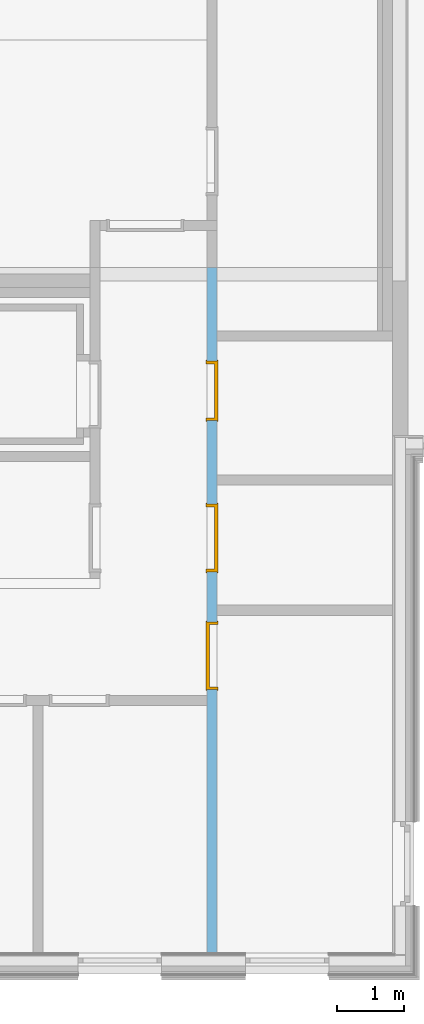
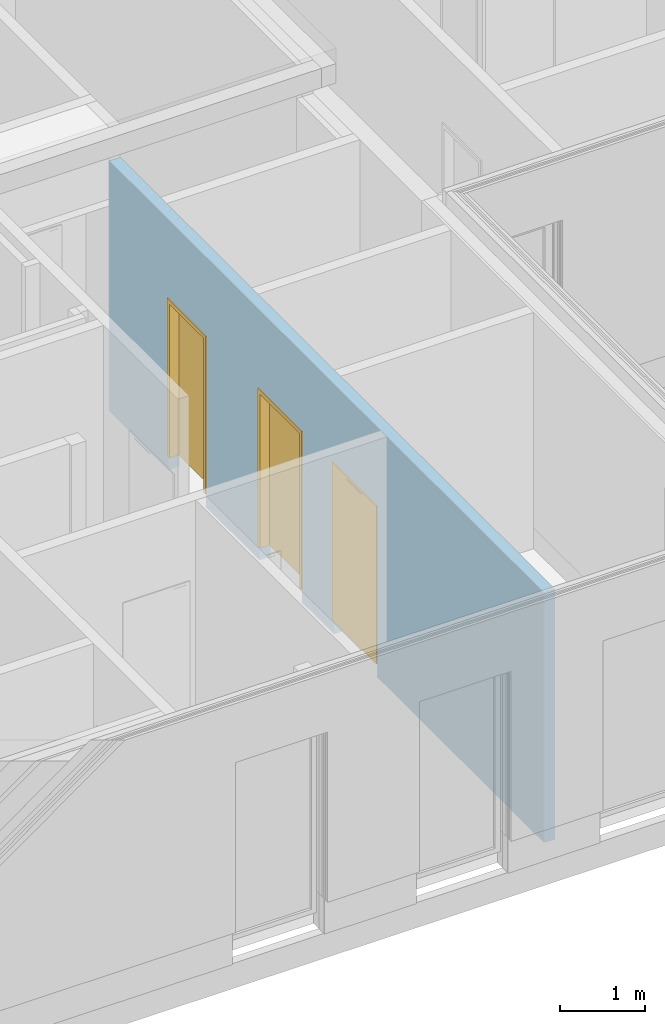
# One storey, part 10 of 23: 3 doors, 3 openings, plus 1 element that does not belong to this part.
"""IFC4 building model written with IfcOpenShell, lengths in metres."""

from ifc_helpers import new_model, entity, si_unit, converted_unit, derived_unit, frame, origin, origin_with_axes, place, context, subcontext, project, spatial, polyline, outline, extrude, faceted_brep, source, transform, mapped, material, type_object, element, fill, save


model = new_model("IFC4")

# Units and contexts
model_context = context("Model", 3, precision=1e-05, world=origin())
body_context = subcontext(model_context, "Body", "Model", "MODEL_VIEW")
ifc_project = project(units=[si_unit("LENGTHUNIT", "METRE"), si_unit("AREAUNIT", "SQUARE_METRE"), si_unit("VOLUMEUNIT", "CUBIC_METRE"), si_unit("MASSUNIT", "GRAM", prefix="KILO"), converted_unit("PLANEANGLEUNIT", "DEGREE", entity("IfcPlaneAngleMeasure", 0.0174532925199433), si_unit("PLANEANGLEUNIT", "RADIAN"), dimensions=[0, 0, 0, 0, 0, 0, 0]), derived_unit("THERMALTRANSMITTANCEUNIT", [(si_unit("POWERUNIT", "WATT"), 1), (si_unit("THERMODYNAMICTEMPERATUREUNIT", "KELVIN"), -1), (si_unit("LENGTHUNIT", "METRE"), -2)]), derived_unit("VOLUMETRICFLOWRATEUNIT", [(si_unit("LENGTHUNIT", "METRE"), 3), (converted_unit("TIMEUNIT", "hour", entity("IfcTimeMeasure", 3600.0), si_unit("TIMEUNIT", "SECOND"), dimensions=[0, 0, 1, 0, 0, 0, 0]), -1), (si_unit("LENGTHUNIT", "METRE"), -1)])], contexts=[model_context])

# Site, building, storey
site_placement = place(None, origin())
site = spatial("IfcSite", under=ifc_project, at=site_placement, Name="Psychiatrie Neubau Wunstorf", CompositionType="ELEMENT")
building_placement = place(site_placement, origin())
building = spatial("IfcBuilding", under=site, at=building_placement, Name="Neubau H1 Sozialzentrum", CompositionType="ELEMENT")
storey_placement = place(building_placement, frame((0.0, 0.0, 0.7)))
storey = spatial("IfcBuildingStorey", under=building, at=storey_placement, Name="H1 Ebene 0", CompositionType="ELEMENT", Elevation=0.7)

# Wall, openings, doors
ifc_material_1 = material(Name="WI-IW")
wall_placement = place(storey_placement, frame((-7.79152475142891, 4.26232139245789, -0.2), z_axis=(0.0, 0.0, 1.0), x_axis=(-1.70771066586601e-07, 0.999999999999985, 0.0)))
wall = element("IfcWall", 1, at=wall_placement, inside=storey, material=ifc_material_1, context=body_context, shape_type="SweptSolid", body=[
    extrude(outline(polyline([(0.0, -0.150001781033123), (5.05007186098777, -0.150001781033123), (5.20007186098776, -0.150001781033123), (6.99810021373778, -0.150001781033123), (7.14810021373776, -0.150001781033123), (10.2499248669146, -0.150001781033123), (10.2499248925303, -1.75039060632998e-06), (0.0, -1.75039060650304e-06), (0.0, -0.150001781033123)])), frame((0.0, 0.150001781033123, 0.0), z_axis=(0.0, 0.0, 1.0), x_axis=(1.0, 0.0, 0.0)), (0.0, 0.0, 1.0), 3.6),
])
opening_1_placement = place(wall_placement, frame((7.96196380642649, 0.0, 0.0), z_axis=(0.0, 1.0, 0.0), x_axis=(0.0, 0.0, 1.0)))
opening_1 = element("IfcOpeningElement", 2, at=opening_1_placement, cuts=wall, Name="Türöffnung", ObjectType="Opening", context=body_context, shape_type="SweptSolid", body=[
    extrude(outline(polyline([(2.46, 0.885000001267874), (2.46, 0.0), (0.0, 0.0), (0.0, 0.885000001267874), (2.46, 0.885000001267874)])), origin_with_axes(), (0.0, 0.0, 1.0), 0.150000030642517),
])
opening_2_placement = place(wall_placement, frame((5.70007183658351, 0.0, 0.0), z_axis=(0.0, 1.0, 0.0), x_axis=(0.0, 0.0, 1.0)))
opening_2 = element("IfcOpeningElement", 3, at=opening_2_placement, cuts=wall, Name="Türöffnung", ObjectType="Opening", context=body_context, shape_type="SweptSolid", body=[
    extrude(outline(polyline([(2.46, 1.01000000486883), (2.46, 0.0), (0.0, 0.0), (0.0, 1.01000000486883), (2.46, 1.01000000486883)])), origin_with_axes(), (0.0, 0.0, 1.0), 0.150000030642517),
])
opening_3_placement = place(wall_placement, frame((4.95007186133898, 0.150000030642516, 0.0), z_axis=(6.06329677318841e-15, -1.0, 0.0), x_axis=(0.0, 0.0, 1.0)))
opening_3 = element("IfcOpeningElement", 4, at=opening_3_placement, cuts=wall, Name="Türöffnung", ObjectType="Opening", context=body_context, shape_type="SweptSolid", body=[
    extrude(outline(polyline([(2.46, 1.01000000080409), (2.46, 0.0), (0.0, 0.0), (0.0, 1.01000000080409), (2.46, 1.01000000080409)])), origin_with_axes(), (0.0, 0.0, 1.0), 0.150000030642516),
])
ifc_material_2 = material(Name="TI-1F-UZ-ZK")
door_type_1 = type_object("IfcDoorType", Name="SMT", OperationType="SINGLE_SWING_RIGHT", ParameterTakesPrecedence=False, PredefinedType="DOOR")
shared_shape_1 = source(origin_with_axes(), body_context, "Body", "Brep", [
    faceted_brep([(0.0, -0.0150000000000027, 2.46), (0.0400000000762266, -0.0150000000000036, 2.46), (0.0400000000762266, -0.0150000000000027, 0.2), (0.0, -0.0150000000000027, 0.2), (0.0, 0.165000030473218, 0.2), (0.0400000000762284, 0.165000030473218, 0.2), (0.0400000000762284, 0.165000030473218, 2.46), (0.0, 0.165000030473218, 2.46)], [[[0, 1, 2, 3]], [[4, 5, 6, 7]], [[3, 4, 7, 0]], [[2, 5, 4, 3]], [[1, 6, 5, 2]], [[0, 7, 6, 1]]], orient=[[False], [False], [False], [False], [False], [False]]),
    faceted_brep([(0.0, -0.0150000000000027, 2.475), (0.0, -0.0150000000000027, 0.2), (-0.0149999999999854, -0.0150000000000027, 0.2), (-0.0149999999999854, -0.0150000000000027, 2.475), (0.0, 0.0, 0.2), (0.0, 0.0, 2.475), (-0.0149999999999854, 0.0, 2.475), (-0.0149999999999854, 0.0, 0.2)], [[[0, 1, 2, 3]], [[4, 5, 6, 7]], [[1, 0, 5, 4]], [[2, 1, 4, 7]], [[3, 2, 7, 6]], [[0, 3, 6, 5]]], orient=[[False], [False], [False], [False], [False], [False]]),
    faceted_brep([(0.0, 0.150000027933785, 2.475), (0.0, 0.150000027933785, 0.2), (-0.0149999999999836, 0.150000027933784, 0.2), (-0.0149999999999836, 0.150000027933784, 2.475), (0.0, 0.165000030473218, 0.2), (0.0, 0.165000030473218, 2.475), (-0.0149999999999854, 0.165000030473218, 2.475), (-0.0149999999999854, 0.165000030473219, 0.2)], [[[0, 1, 2, 3]], [[4, 5, 6, 7]], [[1, 0, 5, 4]], [[2, 1, 4, 7]], [[3, 2, 7, 6]], [[0, 3, 6, 5]]], orient=[[False], [False], [False], [False], [False], [False]]),
    faceted_brep([(0.845000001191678, -0.0150000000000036, 2.46), (0.885000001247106, -0.0150000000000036, 2.46), (0.885000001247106, -0.0150000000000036, 0.2), (0.845000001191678, -0.0150000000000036, 0.2), (0.845000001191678, 0.165000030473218, 0.2), (0.885000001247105, 0.165000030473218, 0.2), (0.885000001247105, 0.165000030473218, 2.46), (0.845000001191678, 0.165000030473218, 2.46)], [[[0, 1, 2, 3]], [[4, 5, 6, 7]], [[3, 4, 7, 0]], [[2, 5, 4, 3]], [[1, 6, 5, 2]], [[0, 7, 6, 1]]], orient=[[False], [False], [False], [False], [False], [False]]),
    faceted_brep([(0.885000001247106, -0.0150000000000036, 2.475), (0.90000000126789, -0.0150000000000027, 2.475), (0.90000000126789, -0.0150000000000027, 0.2), (0.885000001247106, -0.0150000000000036, 0.2), (0.885000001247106, 0.0, 0.2), (0.90000000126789, 0.0, 0.2), (0.90000000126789, 0.0, 2.475), (0.885000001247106, 0.0, 2.475)], [[[0, 1, 2, 3]], [[4, 5, 6, 7]], [[3, 4, 7, 0]], [[2, 5, 4, 3]], [[1, 6, 5, 2]], [[0, 7, 6, 1]]], orient=[[False], [False], [False], [False], [False], [False]]),
    faceted_brep([(0.885000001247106, 0.150000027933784, 2.475), (0.90000000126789, 0.150000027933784, 2.475), (0.90000000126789, 0.150000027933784, 0.2), (0.885000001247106, 0.150000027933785, 0.2), (0.885000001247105, 0.165000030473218, 0.2), (0.90000000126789, 0.165000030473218, 0.2), (0.90000000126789, 0.165000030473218, 2.475), (0.885000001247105, 0.165000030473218, 2.475)], [[[0, 1, 2, 3]], [[4, 5, 6, 7]], [[3, 4, 7, 0]], [[2, 5, 4, 3]], [[1, 6, 5, 2]], [[0, 7, 6, 1]]], orient=[[False], [False], [False], [False], [False], [False]]),
    faceted_brep([(0.0400000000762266, -0.0150000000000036, 2.46), (0.845000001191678, -0.0150000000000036, 2.46), (0.845000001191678, -0.0150000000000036, 2.42), (0.0400000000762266, -0.0150000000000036, 2.42), (0.0400000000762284, 0.165000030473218, 2.42), (0.845000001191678, 0.165000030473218, 2.42), (0.845000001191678, 0.165000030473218, 2.46), (0.0400000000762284, 0.165000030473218, 2.46)], [[[0, 1, 2, 3]], [[4, 5, 6, 7]], [[3, 4, 7, 0]], [[2, 5, 4, 3]], [[1, 6, 5, 2]], [[0, 7, 6, 1]]], orient=[[False], [False], [False], [False], [False], [False]]),
    faceted_brep([(0.0, -0.0150000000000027, 2.475), (0.885000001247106, -0.0150000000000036, 2.475), (0.885000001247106, -0.0150000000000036, 2.46), (0.0, -0.0150000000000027, 2.46), (0.0, 0.0, 2.46), (0.885000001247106, 0.0, 2.46), (0.885000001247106, 0.0, 2.475), (0.0, 0.0, 2.475)], [[[0, 1, 2, 3]], [[4, 5, 6, 7]], [[3, 4, 7, 0]], [[2, 5, 4, 3]], [[1, 6, 5, 2]], [[0, 7, 6, 1]]], orient=[[False], [False], [False], [False], [False], [False]]),
    faceted_brep([(0.0, 0.150000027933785, 2.475), (0.885000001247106, 0.150000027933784, 2.475), (0.885000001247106, 0.150000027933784, 2.46), (0.0, 0.150000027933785, 2.46), (0.0, 0.165000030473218, 2.46), (0.885000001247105, 0.165000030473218, 2.46), (0.885000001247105, 0.165000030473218, 2.475), (0.0, 0.165000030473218, 2.475)], [[[0, 1, 2, 3]], [[4, 5, 6, 7]], [[3, 4, 7, 0]], [[2, 5, 4, 3]], [[1, 6, 5, 2]], [[0, 7, 6, 1]]], orient=[[False], [False], [False], [False], [False], [False]]),
    faceted_brep([(0.0250000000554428, 0.11600002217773, 2.435), (0.860000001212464, 0.11600002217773, 2.435), (0.860000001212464, 0.116000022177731, 0.2), (0.0250000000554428, 0.116000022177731, 0.2), (0.0250000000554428, 0.166000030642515, 0.2), (0.860000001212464, 0.166000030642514, 0.2), (0.860000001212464, 0.166000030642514, 2.435), (0.0250000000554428, 0.166000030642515, 2.435)], [[[0, 1, 2, 3]], [[4, 5, 6, 7]], [[3, 4, 7, 0]], [[2, 5, 4, 3]], [[1, 6, 5, 2]], [[0, 7, 6, 1]]], orient=[[False], [False], [False], [False], [False], [False]]),
])
door_1_placement = place(opening_1_placement, frame((0.0, 0.885000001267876, 0.150000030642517), z_axis=(1.0, 0.0, 0.0), x_axis=(0.0, -1.0, -3.11615506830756e-16)))
door_1 = element("IfcDoor", 5, at=door_1_placement, inside=storey, type_object=door_type_1, material=ifc_material_2, Name="SMT", OverallHeight=2.46, OverallWidth=0.885, context=body_context, shape_type="MappedRepresentation", body=[
    mapped(shared_shape_1, transform((0.0, 0.0, 0.0), x_axis=(1.0, 0.0, 0.0), y_axis=(0.0, 1.0, 0.0), z_axis=(0.0, 0.0, 1.0), scale=1.0)),
])
fill(opening_1, door_1)
ifc_material_3 = material(Name="TI-1F-UZ-ZK")
door_type_2 = type_object("IfcDoorType", Name="SMT", OperationType="SINGLE_SWING_RIGHT", ParameterTakesPrecedence=False, PredefinedType="DOOR")
shared_shape_2 = source(origin_with_axes(), body_context, "Body", "Brep", [
    faceted_brep([(0.0, -0.0150000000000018, 2.46), (0.0400000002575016, -0.0150000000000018, 2.46), (0.0400000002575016, -0.0150000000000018, 0.2), (0.0, -0.0150000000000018, 0.2), (0.0, 0.165000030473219, 0.2), (0.0400000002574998, 0.165000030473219, 0.2), (0.0400000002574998, 0.165000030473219, 2.46), (0.0, 0.165000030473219, 2.46)], [[[0, 1, 2, 3]], [[4, 5, 6, 7]], [[3, 4, 7, 0]], [[2, 5, 4, 3]], [[1, 6, 5, 2]], [[0, 7, 6, 1]]], orient=[[False], [False], [False], [False], [False], [False]]),
    faceted_brep([(0.0, -0.0150000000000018, 2.475), (0.0, -0.0150000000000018, 0.2), (-0.0149999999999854, -0.0150000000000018, 0.2), (-0.0149999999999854, -0.0150000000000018, 2.475), (0.0, 0.0, 0.2), (0.0, 0.0, 2.475), (-0.0149999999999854, 0.0, 2.475), (-0.0149999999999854, 0.0, 0.2)], [[[0, 1, 2, 3]], [[4, 5, 6, 7]], [[1, 0, 5, 4]], [[2, 1, 4, 7]], [[3, 2, 7, 6]], [[0, 3, 6, 5]]], orient=[[False], [False], [False], [False], [False], [False]]),
    faceted_brep([(0.0, 0.150000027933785, 2.475), (0.0, 0.150000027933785, 0.2), (-0.0149999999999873, 0.150000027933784, 0.2), (-0.0149999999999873, 0.150000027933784, 2.475), (0.0, 0.165000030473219, 0.2), (0.0, 0.165000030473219, 2.475), (-0.0149999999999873, 0.165000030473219, 2.475), (-0.0149999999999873, 0.165000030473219, 0.2)], [[[0, 1, 2, 3]], [[4, 5, 6, 7]], [[1, 0, 5, 4]], [[2, 1, 4, 7]], [[3, 2, 7, 6]], [[0, 3, 6, 5]]], orient=[[False], [False], [False], [False], [False], [False]]),
    faceted_brep([(0.970000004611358, -0.0150000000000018, 2.46), (1.01000000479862, -0.0150000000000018, 2.46), (1.01000000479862, -0.0150000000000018, 0.2), (0.970000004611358, -0.0150000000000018, 0.2), (0.970000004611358, 0.165000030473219, 0.2), (1.01000000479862, 0.165000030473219, 0.2), (1.01000000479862, 0.165000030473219, 2.46), (0.970000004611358, 0.165000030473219, 2.46)], [[[0, 1, 2, 3]], [[4, 5, 6, 7]], [[3, 4, 7, 0]], [[2, 5, 4, 3]], [[1, 6, 5, 2]], [[0, 7, 6, 1]]], orient=[[False], [False], [False], [False], [False], [False]]),
    faceted_brep([(1.01000000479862, -0.0150000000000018, 2.475), (1.02500000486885, -0.0150000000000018, 2.475), (1.02500000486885, -0.0150000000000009, 0.2), (1.01000000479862, -0.0150000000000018, 0.2), (1.01000000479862, 0.0, 0.2), (1.02500000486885, 0.0, 0.2), (1.02500000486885, 0.0, 2.475), (1.01000000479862, 0.0, 2.475)], [[[0, 1, 2, 3]], [[4, 5, 6, 7]], [[3, 4, 7, 0]], [[2, 5, 4, 3]], [[1, 6, 5, 2]], [[0, 7, 6, 1]]], orient=[[False], [False], [False], [False], [False], [False]]),
    faceted_brep([(1.01000000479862, 0.150000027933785, 2.475), (1.02500000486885, 0.150000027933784, 2.475), (1.02500000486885, 0.150000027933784, 0.2), (1.01000000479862, 0.150000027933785, 0.2), (1.01000000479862, 0.165000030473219, 0.2), (1.02500000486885, 0.16500003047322, 0.2), (1.02500000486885, 0.165000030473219, 2.475), (1.01000000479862, 0.165000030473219, 2.475)], [[[0, 1, 2, 3]], [[4, 5, 6, 7]], [[3, 4, 7, 0]], [[2, 5, 4, 3]], [[1, 6, 5, 2]], [[0, 7, 6, 1]]], orient=[[False], [False], [False], [False], [False], [False]]),
    faceted_brep([(0.0400000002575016, -0.0150000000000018, 2.46), (0.970000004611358, -0.0150000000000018, 2.46), (0.970000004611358, -0.0150000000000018, 2.42), (0.0400000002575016, -0.0150000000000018, 2.42), (0.0400000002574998, 0.165000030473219, 2.42), (0.970000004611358, 0.165000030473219, 2.42), (0.970000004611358, 0.165000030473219, 2.46), (0.0400000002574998, 0.165000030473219, 2.46)], [[[0, 1, 2, 3]], [[4, 5, 6, 7]], [[3, 4, 7, 0]], [[2, 5, 4, 3]], [[1, 6, 5, 2]], [[0, 7, 6, 1]]], orient=[[False], [False], [False], [False], [False], [False]]),
    faceted_brep([(0.0, -0.0150000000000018, 2.475), (1.01000000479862, -0.0150000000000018, 2.475), (1.01000000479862, -0.0150000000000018, 2.46), (0.0, -0.0150000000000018, 2.46), (0.0, 0.0, 2.46), (1.01000000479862, 0.0, 2.46), (1.01000000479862, 0.0, 2.475), (0.0, 0.0, 2.475)], [[[0, 1, 2, 3]], [[4, 5, 6, 7]], [[3, 4, 7, 0]], [[2, 5, 4, 3]], [[1, 6, 5, 2]], [[0, 7, 6, 1]]], orient=[[False], [False], [False], [False], [False], [False]]),
    faceted_brep([(0.0, 0.150000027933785, 2.475), (1.01000000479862, 0.150000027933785, 2.475), (1.01000000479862, 0.150000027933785, 2.46), (0.0, 0.150000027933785, 2.46), (0.0, 0.165000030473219, 2.46), (1.01000000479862, 0.165000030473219, 2.46), (1.01000000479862, 0.165000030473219, 2.475), (0.0, 0.165000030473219, 2.475)], [[[0, 1, 2, 3]], [[4, 5, 6, 7]], [[3, 4, 7, 0]], [[2, 5, 4, 3]], [[1, 6, 5, 2]], [[0, 7, 6, 1]]], orient=[[False], [False], [False], [False], [False], [False]]),
    faceted_brep([(0.0250000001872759, 0.116000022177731, 2.435), (0.985000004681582, 0.116000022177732, 2.435), (0.985000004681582, 0.116000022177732, 0.2), (0.0250000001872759, 0.116000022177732, 0.2), (0.0250000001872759, 0.166000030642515, 0.2), (0.985000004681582, 0.166000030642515, 0.2), (0.985000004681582, 0.166000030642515, 2.435), (0.0250000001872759, 0.166000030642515, 2.435)], [[[0, 1, 2, 3]], [[4, 5, 6, 7]], [[3, 4, 7, 0]], [[2, 5, 4, 3]], [[1, 6, 5, 2]], [[0, 7, 6, 1]]], orient=[[False], [False], [False], [False], [False], [False]]),
])
door_2_placement = place(opening_2_placement, frame((0.0, 1.01000000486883, 0.150000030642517), z_axis=(1.0, 0.0, 0.0), x_axis=(0.0, -1.0, 4.31057184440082e-17)))
door_2 = element("IfcDoor", 6, at=door_2_placement, inside=storey, type_object=door_type_2, material=ifc_material_3, Name="SMT", OverallHeight=2.46, OverallWidth=1.01, context=body_context, shape_type="MappedRepresentation", body=[
    mapped(shared_shape_2, transform((0.0, 0.0, 0.0), x_axis=(1.0, 0.0, 0.0), y_axis=(0.0, 1.0, 0.0), z_axis=(0.0, 0.0, 1.0), scale=1.0)),
])
fill(opening_2, door_2)
ifc_material_4 = material(Name="TI-1F-UZ-ZK")
door_type_3 = type_object("IfcDoorType", Name="SMT", OperationType="SINGLE_SWING_RIGHT", ParameterTakesPrecedence=False, PredefinedType="DOOR")
shared_shape_3 = source(origin_with_axes(), body_context, "Body", "Brep", [
    faceted_brep([(0.0, -0.0150000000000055, 2.46), (0.0400000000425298, -0.0150000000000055, 2.46), (0.0400000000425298, -0.0150000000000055, 0.2), (0.0, -0.0150000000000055, 0.2), (0.0, 0.165000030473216, 0.2), (0.0400000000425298, 0.165000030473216, 0.2), (0.0400000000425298, 0.165000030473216, 2.46), (0.0, 0.165000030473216, 2.46)], [[[0, 1, 2, 3]], [[4, 5, 6, 7]], [[3, 4, 7, 0]], [[2, 5, 4, 3]], [[1, 6, 5, 2]], [[0, 7, 6, 1]]], orient=[[False], [False], [False], [False], [False], [False]]),
    faceted_brep([(0.0, -0.0150000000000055, 2.475), (0.0, -0.0150000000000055, 0.2), (-0.0149999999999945, -0.0150000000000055, 0.2), (-0.0149999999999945, -0.0150000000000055, 2.475), (0.0, 0.0, 0.2), (0.0, 0.0, 2.475), (-0.0149999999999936, 0.0, 2.475), (-0.0149999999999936, 0.0, 0.2)], [[[0, 1, 2, 3]], [[4, 5, 6, 7]], [[1, 0, 5, 4]], [[2, 1, 4, 7]], [[3, 2, 7, 6]], [[0, 3, 6, 5]]], orient=[[False], [False], [False], [False], [False], [False]]),
    faceted_brep([(0.0, 0.150000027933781, 2.475), (0.0, 0.150000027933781, 0.2), (-0.0149999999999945, 0.15000002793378, 0.2), (-0.0149999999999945, 0.15000002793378, 2.475), (0.0, 0.165000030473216, 0.2), (0.0, 0.165000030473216, 2.475), (-0.0149999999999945, 0.165000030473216, 2.475), (-0.0149999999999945, 0.165000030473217, 0.2)], [[[0, 1, 2, 3]], [[4, 5, 6, 7]], [[1, 0, 5, 4]], [[2, 1, 4, 7]], [[3, 2, 7, 6]], [[0, 3, 6, 5]]], orient=[[False], [False], [False], [False], [False], [False]]),
    faceted_brep([(0.970000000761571, -0.0150000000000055, 2.46), (1.0100000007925, -0.0150000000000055, 2.46), (1.0100000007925, -0.0150000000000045, 0.2), (0.970000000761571, -0.0150000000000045, 0.2), (0.970000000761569, 0.165000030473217, 0.2), (1.0100000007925, 0.165000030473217, 0.2), (1.0100000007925, 0.165000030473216, 2.46), (0.970000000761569, 0.165000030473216, 2.46)], [[[0, 1, 2, 3]], [[4, 5, 6, 7]], [[3, 4, 7, 0]], [[2, 5, 4, 3]], [[1, 6, 5, 2]], [[0, 7, 6, 1]]], orient=[[False], [False], [False], [False], [False], [False]]),
    faceted_brep([(1.0100000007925, -0.0150000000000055, 2.475), (1.02500000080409, -0.0150000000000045, 2.475), (1.02500000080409, -0.0150000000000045, 0.2), (1.0100000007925, -0.0150000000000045, 0.2), (1.01000000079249, 0.0, 0.2), (1.02500000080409, 0.0, 0.2), (1.02500000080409, 0.0, 2.475), (1.01000000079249, 0.0, 2.475)], [[[0, 1, 2, 3]], [[4, 5, 6, 7]], [[3, 4, 7, 0]], [[2, 5, 4, 3]], [[1, 6, 5, 2]], [[0, 7, 6, 1]]], orient=[[False], [False], [False], [False], [False], [False]]),
    faceted_brep([(1.0100000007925, 0.150000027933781, 2.475), (1.02500000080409, 0.150000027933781, 2.475), (1.02500000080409, 0.150000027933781, 0.2), (1.0100000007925, 0.150000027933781, 0.2), (1.0100000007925, 0.165000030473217, 0.2), (1.02500000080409, 0.165000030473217, 0.2), (1.02500000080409, 0.165000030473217, 2.475), (1.0100000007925, 0.165000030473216, 2.475)], [[[0, 1, 2, 3]], [[4, 5, 6, 7]], [[3, 4, 7, 0]], [[2, 5, 4, 3]], [[1, 6, 5, 2]], [[0, 7, 6, 1]]], orient=[[False], [False], [False], [False], [False], [False]]),
    faceted_brep([(0.0400000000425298, -0.0150000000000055, 2.46), (0.970000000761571, -0.0150000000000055, 2.46), (0.970000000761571, -0.0150000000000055, 2.42), (0.0400000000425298, -0.0150000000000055, 2.42), (0.0400000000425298, 0.165000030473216, 2.42), (0.970000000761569, 0.165000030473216, 2.42), (0.970000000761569, 0.165000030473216, 2.46), (0.0400000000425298, 0.165000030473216, 2.46)], [[[0, 1, 2, 3]], [[4, 5, 6, 7]], [[3, 4, 7, 0]], [[2, 5, 4, 3]], [[1, 6, 5, 2]], [[0, 7, 6, 1]]], orient=[[False], [False], [False], [False], [False], [False]]),
    faceted_brep([(0.0, -0.0150000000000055, 2.475), (1.0100000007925, -0.0150000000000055, 2.475), (1.0100000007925, -0.0150000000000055, 2.46), (0.0, -0.0150000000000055, 2.46), (0.0, 0.0, 2.46), (1.01000000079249, 0.0, 2.46), (1.01000000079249, 0.0, 2.475), (0.0, 0.0, 2.475)], [[[0, 1, 2, 3]], [[4, 5, 6, 7]], [[3, 4, 7, 0]], [[2, 5, 4, 3]], [[1, 6, 5, 2]], [[0, 7, 6, 1]]], orient=[[False], [False], [False], [False], [False], [False]]),
    faceted_brep([(0.0, 0.150000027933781, 2.475), (1.0100000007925, 0.150000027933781, 2.475), (1.0100000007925, 0.150000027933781, 2.46), (0.0, 0.150000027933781, 2.46), (0.0, 0.165000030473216, 2.46), (1.0100000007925, 0.165000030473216, 2.46), (1.0100000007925, 0.165000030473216, 2.475), (0.0, 0.165000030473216, 2.475)], [[[0, 1, 2, 3]], [[4, 5, 6, 7]], [[3, 4, 7, 0]], [[2, 5, 4, 3]], [[1, 6, 5, 2]], [[0, 7, 6, 1]]], orient=[[False], [False], [False], [False], [False], [False]]),
    faceted_brep([(0.0250000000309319, 0.116000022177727, 2.435), (0.985000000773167, 0.116000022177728, 2.435), (0.985000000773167, 0.116000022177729, 0.2), (0.0250000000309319, 0.116000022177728, 0.2), (0.0250000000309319, 0.166000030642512, 0.2), (0.985000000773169, 0.166000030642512, 0.2), (0.985000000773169, 0.166000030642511, 2.435), (0.0250000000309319, 0.166000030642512, 2.435)], [[[0, 1, 2, 3]], [[4, 5, 6, 7]], [[3, 4, 7, 0]], [[2, 5, 4, 3]], [[1, 6, 5, 2]], [[0, 7, 6, 1]]], orient=[[False], [False], [False], [False], [False], [False]]),
])
door_3_placement = place(opening_3_placement, frame((0.0, 1.01000000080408, 0.150000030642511), z_axis=(1.0, 0.0, 0.0), x_axis=(0.0, -1.0, 6.31962388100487e-15)))
door_3 = element("IfcDoor", 7, at=door_3_placement, inside=storey, type_object=door_type_3, material=ifc_material_4, Name="SMT", OverallHeight=2.46, OverallWidth=1.01, context=body_context, shape_type="MappedRepresentation", body=[
    mapped(shared_shape_3, transform((0.0, 0.0, 0.0), x_axis=(1.0, 0.0, 0.0), y_axis=(0.0, 1.0, 0.0), z_axis=(0.0, 0.0, 1.0), scale=1.0)),
])
fill(opening_3, door_3)

save(model, "model.ifc")
